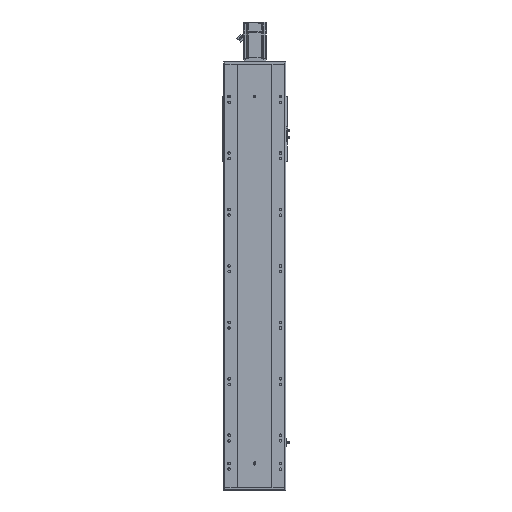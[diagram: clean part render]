
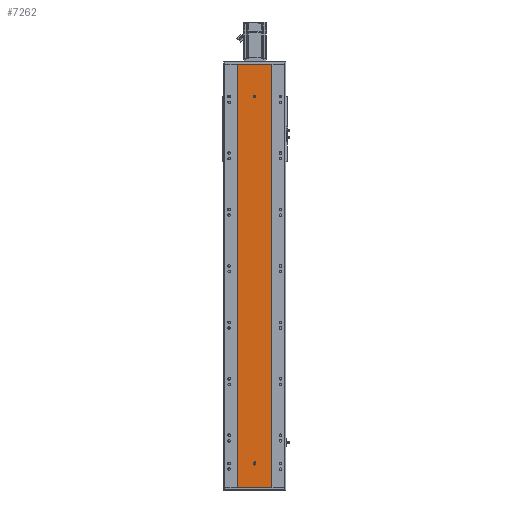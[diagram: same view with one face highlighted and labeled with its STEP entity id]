
A CAD part, front view. The second image highlights one B-rep face of the part: STEP entity #7262.
In plain terms, the highlighted planar face has unit normal (0, -1, 0).
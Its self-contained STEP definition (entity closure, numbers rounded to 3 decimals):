
#241 = AXIS2_PLACEMENT_3D ( 'NONE', #6383, #34342, #17161 ) ;
#962 = CARTESIAN_POINT ( 'NONE',  ( 0., 0., 87.5 ) ) ;
#2044 = EDGE_CURVE ( 'NONE', #12381, #53379, #70298, .T. ) ;
#2366 = DIRECTION ( 'NONE',  ( 0., 0., -1. ) ) ;
#2642 = CARTESIAN_POINT ( 'NONE',  ( -60., 0., 1500. ) ) ;
#2850 = ORIENTED_EDGE ( 'NONE', *, *, #42950, .F. ) ;
#2883 = DIRECTION ( 'NONE',  ( 0., 0., -1. ) ) ;
#4079 = EDGE_CURVE ( 'NONE', #35995, #60232, #70017, .T. ) ;
#4500 = EDGE_LOOP ( 'NONE', ( #24280, #46814, #41969, #18137, #14161 ) ) ;
#5589 = VERTEX_POINT ( 'NONE', #57589 ) ;
#6383 = CARTESIAN_POINT ( 'NONE',  ( -60., 0., 1500. ) ) ;
#7190 = DIRECTION ( 'NONE',  ( 0., -1., 0. ) ) ;
#7262 = ADVANCED_FACE ( 'NONE', ( #26390, #12068, #15662 ), #29614, .F. ) ;
#7543 = VECTOR ( 'NONE', #71502, 1000. ) ;
#7820 = VECTOR ( 'NONE', #40643, 1000. ) ;
#8274 = CIRCLE ( 'NONE', #42032, 4. ) ;
#9856 = CARTESIAN_POINT ( 'NONE',  ( -60., 0., 0. ) ) ;
#11267 = CARTESIAN_POINT ( 'NONE',  ( -4., 0., 87.5 ) ) ;
#12068 = FACE_BOUND ( 'NONE', #4500, .T. ) ;
#12095 = EDGE_CURVE ( 'NONE', #53379, #5589, #8274, .T. ) ;
#12381 = VERTEX_POINT ( 'NONE', #11267 ) ;
#14161 = ORIENTED_EDGE ( 'NONE', *, *, #66575, .F. ) ;
#14516 = AXIS2_PLACEMENT_3D ( 'NONE', #37046, #53495, #2883 ) ;
#15662 = FACE_OUTER_BOUND ( 'NONE', #38682, .T. ) ;
#16101 = CARTESIAN_POINT ( 'NONE',  ( 60., 0., 0. ) ) ;
#16729 = EDGE_CURVE ( 'NONE', #22407, #65776, #27424, .T. ) ;
#17161 = DIRECTION ( 'NONE',  ( 0., 0., 1. ) ) ;
#17557 = CARTESIAN_POINT ( 'NONE',  ( -4., 0., 84.5 ) ) ;
#18137 = ORIENTED_EDGE ( 'NONE', *, *, #2044, .F. ) ;
#20228 = DIRECTION ( 'NONE',  ( 1., 0., 0. ) ) ;
#22407 = VERTEX_POINT ( 'NONE', #61309 ) ;
#22822 = CARTESIAN_POINT ( 'NONE',  ( 0., 0., 1390. ) ) ;
#23121 = CIRCLE ( 'NONE', #14516, 4. ) ;
#24135 = AXIS2_PLACEMENT_3D ( 'NONE', #48203, #48450, #2366 ) ;
#24166 = EDGE_CURVE ( 'NONE', #41174, #35995, #43056, .T. ) ;
#24280 = ORIENTED_EDGE ( 'NONE', *, *, #16729, .F. ) ;
#26390 = FACE_BOUND ( 'NONE', #71873, .T. ) ;
#27424 = LINE ( 'NONE', #27472, #59502 ) ;
#27472 = CARTESIAN_POINT ( 'NONE',  ( 4., 0., 84.5 ) ) ;
#27722 = DIRECTION ( 'NONE',  ( 0., 0., 1. ) ) ;
#27984 = VECTOR ( 'NONE', #20228, 1000. ) ;
#28717 = EDGE_CURVE ( 'NONE', #39576, #60232, #48593, .T. ) ;
#29023 = CIRCLE ( 'NONE', #24135, 4. ) ;
#29313 = ORIENTED_EDGE ( 'NONE', *, *, #28717, .T. ) ;
#29407 = CIRCLE ( 'NONE', #34354, 4. ) ;
#29614 = PLANE ( 'NONE',  #241 ) ;
#31536 = CARTESIAN_POINT ( 'NONE',  ( 4., 0., 87.5 ) ) ;
#31610 = DIRECTION ( 'NONE',  ( 0., 0., -1. ) ) ;
#33477 = CARTESIAN_POINT ( 'NONE',  ( 0., 0., 1386. ) ) ;
#34342 = DIRECTION ( 'NONE',  ( 0., 1., 0. ) ) ;
#34354 = AXIS2_PLACEMENT_3D ( 'NONE', #33477, #73091, #44833 ) ;
#34788 = ORIENTED_EDGE ( 'NONE', *, *, #62623, .F. ) ;
#35995 = VERTEX_POINT ( 'NONE', #57053 ) ;
#36597 = EDGE_CURVE ( 'NONE', #5589, #22407, #29023, .T. ) ;
#36961 = VERTEX_POINT ( 'NONE', #22822 ) ;
#37046 = CARTESIAN_POINT ( 'NONE',  ( 0., 0., 1386. ) ) ;
#37310 = ORIENTED_EDGE ( 'NONE', *, *, #65031, .T. ) ;
#37579 = CARTESIAN_POINT ( 'NONE',  ( -60., 0., 1500. ) ) ;
#38682 = EDGE_LOOP ( 'NONE', ( #29313, #61460, #41045, #37310 ) ) ;
#39576 = VERTEX_POINT ( 'NONE', #42573 ) ;
#39599 = VECTOR ( 'NONE', #31610, 1000. ) ;
#40643 = DIRECTION ( 'NONE',  ( 0., 0., -1. ) ) ;
#41045 = ORIENTED_EDGE ( 'NONE', *, *, #24166, .F. ) ;
#41174 = VERTEX_POINT ( 'NONE', #2642 ) ;
#41416 = AXIS2_PLACEMENT_3D ( 'NONE', #962, #7190, #58043 ) ;
#41969 = ORIENTED_EDGE ( 'NONE', *, *, #12095, .F. ) ;
#42032 = AXIS2_PLACEMENT_3D ( 'NONE', #70610, #42828, #54089 ) ;
#42347 = VECTOR ( 'NONE', #49656, 1000. ) ;
#42573 = CARTESIAN_POINT ( 'NONE',  ( -60., 0., 0. ) ) ;
#42828 = DIRECTION ( 'NONE',  ( 0., -1., 0. ) ) ;
#42950 = EDGE_CURVE ( 'NONE', #36961, #73158, #29407, .T. ) ;
#43056 = LINE ( 'NONE', #37579, #27984 ) ;
#44833 = DIRECTION ( 'NONE',  ( 0., 0., -1. ) ) ;
#46814 = ORIENTED_EDGE ( 'NONE', *, *, #36597, .F. ) ;
#48203 = CARTESIAN_POINT ( 'NONE',  ( 0., 0., 84.5 ) ) ;
#48450 = DIRECTION ( 'NONE',  ( 0., -1., 0. ) ) ;
#48593 = LINE ( 'NONE', #9856, #42347 ) ;
#49656 = DIRECTION ( 'NONE',  ( 1., 0., 0. ) ) ;
#50425 = CARTESIAN_POINT ( 'NONE',  ( -4., 0., 84.5 ) ) ;
#53379 = VERTEX_POINT ( 'NONE', #50425 ) ;
#53495 = DIRECTION ( 'NONE',  ( 0., -1., 0. ) ) ;
#54089 = DIRECTION ( 'NONE',  ( 0., 0., -1. ) ) ;
#54598 = CIRCLE ( 'NONE', #41416, 4. ) ;
#57053 = CARTESIAN_POINT ( 'NONE',  ( 60., 0., 1500. ) ) ;
#57589 = CARTESIAN_POINT ( 'NONE',  ( 0., 0., 80.5 ) ) ;
#58043 = DIRECTION ( 'NONE',  ( 0., 0., -1. ) ) ;
#59501 = CARTESIAN_POINT ( 'NONE',  ( -60., 0., 1500. ) ) ;
#59502 = VECTOR ( 'NONE', #27722, 1000. ) ;
#59952 = CARTESIAN_POINT ( 'NONE',  ( 60., 0., 1500. ) ) ;
#60232 = VERTEX_POINT ( 'NONE', #16101 ) ;
#61309 = CARTESIAN_POINT ( 'NONE',  ( 4., 0., 84.5 ) ) ;
#61460 = ORIENTED_EDGE ( 'NONE', *, *, #4079, .F. ) ;
#62124 = CARTESIAN_POINT ( 'NONE',  ( 0., 0., 1382. ) ) ;
#62623 = EDGE_CURVE ( 'NONE', #73158, #36961, #23121, .T. ) ;
#65031 = EDGE_CURVE ( 'NONE', #41174, #39576, #70030, .T. ) ;
#65776 = VERTEX_POINT ( 'NONE', #31536 ) ;
#66575 = EDGE_CURVE ( 'NONE', #65776, #12381, #54598, .T. ) ;
#70017 = LINE ( 'NONE', #59952, #39599 ) ;
#70030 = LINE ( 'NONE', #59501, #7543 ) ;
#70298 = LINE ( 'NONE', #17557, #7820 ) ;
#70610 = CARTESIAN_POINT ( 'NONE',  ( 0., 0., 84.5 ) ) ;
#71502 = DIRECTION ( 'NONE',  ( 0., 0., -1. ) ) ;
#71873 = EDGE_LOOP ( 'NONE', ( #34788, #2850 ) ) ;
#73091 = DIRECTION ( 'NONE',  ( 0., -1., 0. ) ) ;
#73158 = VERTEX_POINT ( 'NONE', #62124 ) ;
